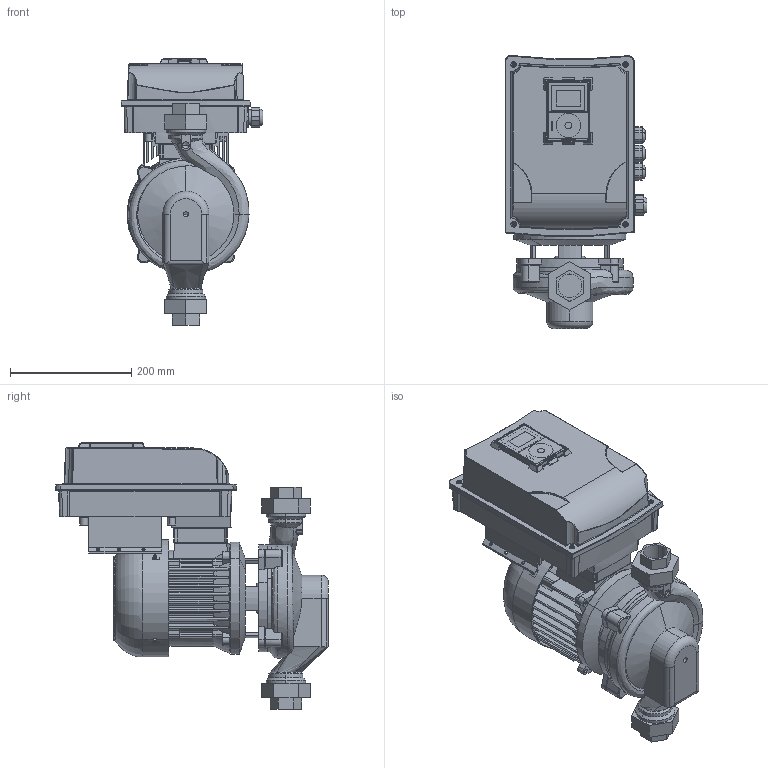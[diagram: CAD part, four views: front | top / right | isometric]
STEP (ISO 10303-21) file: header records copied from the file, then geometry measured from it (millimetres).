
FILE_DESCRIPTION(('STEP AP214'),'1');
FILE_NAME('export.stp','2018-06-01T10:16:55',(' '),(' '),'Spatial InterOp 3D',' ',' ');
FILE_SCHEMA(('AUTOMOTIVE_DESIGN { 1 0 10303 214 1 1 1 1 }'));
Length unit declared in the file: millimetre
Products named in the file (24): W_AE334370KHVS; V_TLAEAP3233L40A; V_PPAE33; V_EKN13OKN101; KHSC100B2F19; G34046; G23619; G23630; G43699; DIN_EN_24017-M6x25; G23888; V_MKH100_VS; Vacon20CP_MS2; MS2_bottom_final; P101407; MS2_cover_final; Vacon_Display; CAD-3D-VACON-M100-Display.sldasm; Vacon_display_pla; Vacon_display_scr; DIN_966-M5x10; M20_tiivisteholkk; M25_tiivisteholkk; SOVITUSPALA
Assembly tree (31 placements, depth 5):
  W_AE334370KHVS
    V_TLAEAP3233L40A
    V_PPAE33
    V_EKN13OKN101
    V_MKH100_VS
      KHSC100B2F19
        G34046
        G23619
        G23630
        G43699
        DIN_EN_24017-M6x25  x4
        G23888
      Vacon20CP_MS2
        MS2_bottom_final
        P101407
        MS2_cover_final
        Vacon_Display
          CAD-3D-VACON-M100-Display.sldasm
          Vacon_display_pla
          Vacon_display_scr
        DIN_966-M5x10  x4
        M20_tiivisteholkk  x3
        M25_tiivisteholkk
      SOVITUSPALA
Bounding box: 233.73 x 449.47 x 439.31 mm (x, y, z)
Volume: 4500471.2 mm3; surface area: 1591078.2 mm2
Topology: 25 solids, 1499 shells, 4468 faces, 15898 edges, 12941 vertices
Faces by surface type: bspline 1619, cylinder 1181, plane 1110, torus 283, cone 234, sphere 41
Full cylindrical faces by diameter (mm): 4 x4, 5 x6, 6 x4, 146.5 x1, 147 x1, 152 x1, 157.98 x1, 178 x1, 182 x1
Entity records: 229505 total; most frequent: CARTESIAN_POINT 85223, ORIENTED_EDGE 22743, EDGE_CURVE 15198, DIRECTION 14820, VERTEX_POINT 12570, B_SPLINE_CURVE_WITH_KNOTS 7360, AXIS2_PLACEMENT_3D 5755, STYLED_ITEM 5418
